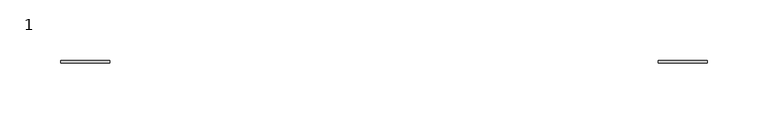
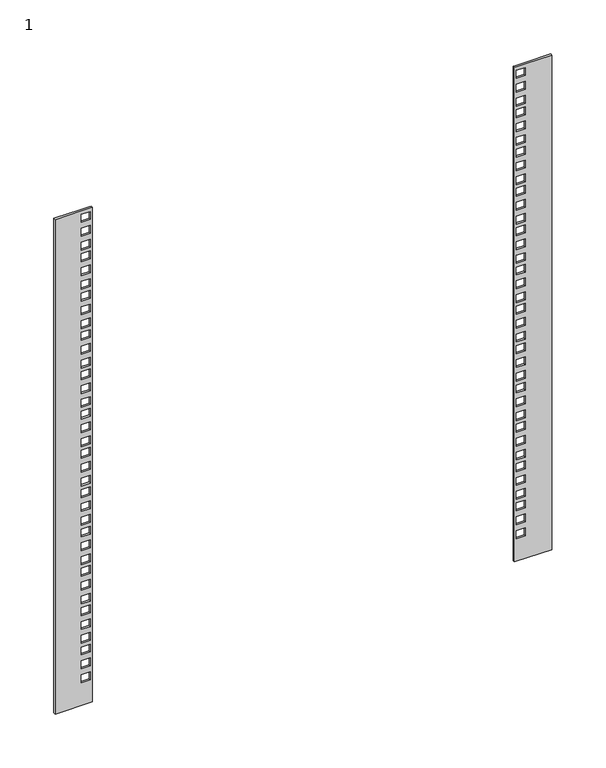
"""IFC4 building model written with IfcOpenShell, lengths in millimetres: proxy geometry, 1 : 12U 600мм стеклянная дверь."""

from ifc_helpers import new_model, si_unit, origin, place, context, project, spatial, faceted_brep, source, transform, mapped, element, save


def proxy_1_d2b752e0(model_context):
    return source(origin(), model_context, "Body", "Brep", [
        faceted_brep([(225.3, -252.6777479, 579.4675), (225.3, -254.6777479, 579.4675), (227.55, -254.6777479, 579.4675), (237.05, -254.6777479, 579.4675), (265.3, -254.6777479, 579.4675), (265.3, -252.6777479, 579.4675), (237.05, -252.6777479, 579.4675), (227.55, -252.6777479, 579.4675), (265.3, -252.6777479, 20.4675), (265.3, -254.6777479, 20.4675), (225.3, -254.6777479, 20.4675), (225.3, -252.6777479, 20.4675), (227.55, -254.6777479, 55.0175), (237.05, -254.6777479, 55.0175), (237.05, -254.6777479, 46.0675), (227.55, -254.6777479, 46.0675), (227.55, -254.6777479, 70.6675), (237.05, -254.6777479, 70.6675), (237.05, -254.6777479, 61.7175), (227.55, -254.6777479, 61.7175), (227.55, -254.6777479, 86.3175), (237.05, -254.6777479, 86.3175), (237.05, -254.6777479, 77.3675), (227.55, -254.6777479, 77.3675), (237.05, -254.6777479, 99.4675), (237.05, -254.6777479, 90.5175), (227.55, -254.6777479, 90.5175), (227.55, -254.6777479, 99.4675), (237.05, -254.6777479, 115.1175), (237.05, -254.6777479, 106.1675), (227.55, -254.6777479, 106.1675), (227.55, -254.6777479, 115.1175), (237.05, -254.6777479, 130.7675), (237.05, -254.6777479, 121.8175), (227.55, -254.6777479, 121.8175), (227.55, -254.6777479, 130.7675), (237.05, -254.6777479, 143.9175), (237.05, -254.6777479, 134.9675), (227.55, -254.6777479, 134.9675), (227.55, -254.6777479, 143.9175), (237.05, -254.6777479, 159.5675), (237.05, -254.6777479, 150.6175), (227.55, -254.6777479, 150.6175), (227.55, -254.6777479, 159.5675), (237.05, -254.6777479, 175.2175), (237.05, -254.6777479, 166.2675), (227.55, -254.6777479, 166.2675), (227.55, -254.6777479, 175.2175), (237.05, -254.6777479, 188.3675), (237.05, -254.6777479, 179.4175), (227.55, -254.6777479, 179.4175), (227.55, -254.6777479, 188.3675), (237.05, -254.6777479, 204.0175), (237.05, -254.6777479, 195.0675), (227.55, -254.6777479, 195.0675), (227.55, -254.6777479, 204.0175), (237.05, -254.6777479, 219.6675), (237.05, -254.6777479, 210.7175), (227.55, -254.6777479, 210.7175), (227.55, -254.6777479, 219.6675), (237.05, -254.6777479, 232.8175), (237.05, -254.6777479, 223.8675), (227.55, -254.6777479, 223.8675), (227.55, -254.6777479, 232.8175), (237.05, -254.6777479, 248.4675), (237.05, -254.6777479, 239.5175), (227.55, -254.6777479, 239.5175), (227.55, -254.6777479, 248.4675), (237.05, -254.6777479, 264.1175), (237.05, -254.6777479, 255.1675), (227.55, -254.6777479, 255.1675), (227.55, -254.6777479, 264.1175), (237.05, -254.6777479, 277.2675), (237.05, -254.6777479, 268.3175), (227.55, -254.6777479, 268.3175), (227.55, -254.6777479, 277.2675), (237.05, -254.6777479, 292.9175), (237.05, -254.6777479, 283.9675), (227.55, -254.6777479, 283.9675), (227.55, -254.6777479, 292.9175), (237.05, -254.6777479, 308.5675), (237.05, -254.6777479, 299.6175), (227.55, -254.6777479, 299.6175), (227.55, -254.6777479, 308.5675), (237.05, -254.6777479, 321.7175), (237.05, -254.6777479, 312.7675), (227.55, -254.6777479, 312.7675), (227.55, -254.6777479, 321.7175), (237.05, -254.6777479, 337.3675), (237.05, -254.6777479, 328.4175), (227.55, -254.6777479, 328.4175), (227.55, -254.6777479, 337.3675), (237.05, -254.6777479, 353.0175), (237.05, -254.6777479, 344.0675), (227.55, -254.6777479, 344.0675), (227.55, -254.6777479, 353.0175), (237.05, -254.6777479, 366.1675), (237.05, -254.6777479, 357.2175), (227.55, -254.6777479, 357.2175), (227.55, -254.6777479, 366.1675), (237.05, -254.6777479, 381.8175), (237.05, -254.6777479, 372.8675), (227.55, -254.6777479, 372.8675), (227.55, -254.6777479, 381.8175), (237.05, -254.6777479, 397.4675), (237.05, -254.6777479, 388.5175), (227.55, -254.6777479, 388.5175), (227.55, -254.6777479, 397.4675), (237.05, -254.6777479, 410.6175), (237.05, -254.6777479, 401.6675), (227.55, -254.6777479, 401.6675), (227.55, -254.6777479, 410.6175), (237.05, -254.6777479, 426.2675), (237.05, -254.6777479, 417.3175), (227.55, -254.6777479, 417.3175), (227.55, -254.6777479, 426.2675), (237.05, -254.6777479, 441.9175), (237.05, -254.6777479, 432.9675), (227.55, -254.6777479, 432.9675), (227.55, -254.6777479, 441.9175), (237.05, -254.6777479, 455.0675), (237.05, -254.6777479, 446.1175), (227.55, -254.6777479, 446.1175), (227.55, -254.6777479, 455.0675), (237.05, -254.6777479, 470.7175), (237.05, -254.6777479, 461.7675), (227.55, -254.6777479, 461.7675), (227.55, -254.6777479, 470.7175), (237.05, -254.6777479, 486.3675), (237.05, -254.6777479, 477.4175), (227.55, -254.6777479, 477.4175), (227.55, -254.6777479, 486.3675), (237.05, -254.6777479, 499.5175), (237.05, -254.6777479, 490.5675), (227.55, -254.6777479, 490.5675), (227.55, -254.6777479, 499.5175), (237.05, -254.6777479, 515.1675), (237.05, -254.6777479, 506.2175), (227.55, -254.6777479, 506.2175), (227.55, -254.6777479, 515.1675), (237.05, -254.6777479, 530.8175), (237.05, -254.6777479, 521.8675), (227.55, -254.6777479, 521.8675), (227.55, -254.6777479, 530.8175), (237.05, -254.6777479, 543.9675), (237.05, -254.6777479, 535.0175), (227.55, -254.6777479, 535.0175), (227.55, -254.6777479, 543.9675), (237.05, -254.6777479, 559.6175), (237.05, -254.6777479, 550.6675), (227.55, -254.6777479, 550.6675), (227.55, -254.6777479, 559.6175), (237.05, -254.6777479, 575.2675), (237.05, -254.6777479, 566.3175), (227.55, -254.6777479, 566.3175), (227.55, -254.6777479, 575.2675), (237.05, -252.6777479, 55.0175), (227.55, -252.6777479, 55.0175), (227.55, -252.6777479, 46.0675), (237.05, -252.6777479, 46.0675), (237.05, -252.6777479, 70.6675), (227.55, -252.6777479, 70.6675), (227.55, -252.6777479, 61.7175), (237.05, -252.6777479, 61.7175), (237.05, -252.6777479, 86.3175), (227.55, -252.6777479, 86.3175), (227.55, -252.6777479, 77.3675), (237.05, -252.6777479, 77.3675), (237.05, -252.6777479, 90.5175), (237.05, -252.6777479, 99.4675), (227.55, -252.6777479, 99.4675), (227.55, -252.6777479, 90.5175), (237.05, -252.6777479, 106.1675), (237.05, -252.6777479, 115.1175), (227.55, -252.6777479, 115.1175), (227.55, -252.6777479, 106.1675), (237.05, -252.6777479, 121.8175), (237.05, -252.6777479, 130.7675), (227.55, -252.6777479, 130.7675), (227.55, -252.6777479, 121.8175), (237.05, -252.6777479, 134.9675), (237.05, -252.6777479, 143.9175), (227.55, -252.6777479, 143.9175), (227.55, -252.6777479, 134.9675), (237.05, -252.6777479, 150.6175), (237.05, -252.6777479, 159.5675), (227.55, -252.6777479, 159.5675), (227.55, -252.6777479, 150.6175), (237.05, -252.6777479, 166.2675), (237.05, -252.6777479, 175.2175), (227.55, -252.6777479, 175.2175), (227.55, -252.6777479, 166.2675), (237.05, -252.6777479, 179.4175), (237.05, -252.6777479, 188.3675), (227.55, -252.6777479, 188.3675), (227.55, -252.6777479, 179.4175), (237.05, -252.6777479, 195.0675), (237.05, -252.6777479, 204.0175), (227.55, -252.6777479, 204.0175), (227.55, -252.6777479, 195.0675), (237.05, -252.6777479, 210.7175), (237.05, -252.6777479, 219.6675), (227.55, -252.6777479, 219.6675), (227.55, -252.6777479, 210.7175), (237.05, -252.6777479, 223.8675), (237.05, -252.6777479, 232.8175), (227.55, -252.6777479, 232.8175), (227.55, -252.6777479, 223.8675), (237.05, -252.6777479, 239.5175), (237.05, -252.6777479, 248.4675), (227.55, -252.6777479, 248.4675), (227.55, -252.6777479, 239.5175), (237.05, -252.6777479, 255.1675), (237.05, -252.6777479, 264.1175), (227.55, -252.6777479, 264.1175), (227.55, -252.6777479, 255.1675), (237.05, -252.6777479, 268.3175), (237.05, -252.6777479, 277.2675), (227.55, -252.6777479, 277.2675), (227.55, -252.6777479, 268.3175), (237.05, -252.6777479, 283.9675), (237.05, -252.6777479, 292.9175), (227.55, -252.6777479, 292.9175), (227.55, -252.6777479, 283.9675), (237.05, -252.6777479, 299.6175), (237.05, -252.6777479, 308.5675), (227.55, -252.6777479, 308.5675), (227.55, -252.6777479, 299.6175), (237.05, -252.6777479, 312.7675), (237.05, -252.6777479, 321.7175), (227.55, -252.6777479, 321.7175), (227.55, -252.6777479, 312.7675), (237.05, -252.6777479, 328.4175), (237.05, -252.6777479, 337.3675), (227.55, -252.6777479, 337.3675), (227.55, -252.6777479, 328.4175), (237.05, -252.6777479, 344.0675), (237.05, -252.6777479, 353.0175), (227.55, -252.6777479, 353.0175), (227.55, -252.6777479, 344.0675), (237.05, -252.6777479, 357.2175), (237.05, -252.6777479, 366.1675), (227.55, -252.6777479, 366.1675), (227.55, -252.6777479, 357.2175), (237.05, -252.6777479, 372.8675), (237.05, -252.6777479, 381.8175), (227.55, -252.6777479, 381.8175), (227.55, -252.6777479, 372.8675), (237.05, -252.6777479, 388.5175), (237.05, -252.6777479, 397.4675), (227.55, -252.6777479, 397.4675), (227.55, -252.6777479, 388.5175), (237.05, -252.6777479, 401.6675), (237.05, -252.6777479, 410.6175), (227.55, -252.6777479, 410.6175), (227.55, -252.6777479, 401.6675), (237.05, -252.6777479, 417.3175), (237.05, -252.6777479, 426.2675), (227.55, -252.6777479, 426.2675), (227.55, -252.6777479, 417.3175), (237.05, -252.6777479, 432.9675), (237.05, -252.6777479, 441.9175), (227.55, -252.6777479, 441.9175), (227.55, -252.6777479, 432.9675), (237.05, -252.6777479, 446.1175), (237.05, -252.6777479, 455.0675), (227.55, -252.6777479, 455.0675), (227.55, -252.6777479, 446.1175), (237.05, -252.6777479, 461.7675), (237.05, -252.6777479, 470.7175), (227.55, -252.6777479, 470.7175), (227.55, -252.6777479, 461.7675), (237.05, -252.6777479, 477.4175), (237.05, -252.6777479, 486.3675), (227.55, -252.6777479, 486.3675), (227.55, -252.6777479, 477.4175), (237.05, -252.6777479, 490.5675), (237.05, -252.6777479, 499.5175), (227.55, -252.6777479, 499.5175), (227.55, -252.6777479, 490.5675), (237.05, -252.6777479, 506.2175), (237.05, -252.6777479, 515.1675), (227.55, -252.6777479, 515.1675), (227.55, -252.6777479, 506.2175), (237.05, -252.6777479, 521.8675), (237.05, -252.6777479, 530.8175), (227.55, -252.6777479, 530.8175), (227.55, -252.6777479, 521.8675), (237.05, -252.6777479, 535.0175), (237.05, -252.6777479, 543.9675), (227.55, -252.6777479, 543.9675), (227.55, -252.6777479, 535.0175), (237.05, -252.6777479, 550.6675), (237.05, -252.6777479, 559.6175), (227.55, -252.6777479, 559.6175), (227.55, -252.6777479, 550.6675), (237.05, -252.6777479, 566.3175), (237.05, -252.6777479, 575.2675), (227.55, -252.6777479, 575.2675), (227.55, -252.6777479, 566.3175)], [[[0, 1, 2, 3, 4, 5, 6, 7]], [[8, 9, 10, 11]], [[5, 4, 9, 8]], [[10, 9, 4, 3, 2, 1], [12, 13, 14, 15], [16, 17, 18, 19], [20, 21, 22, 23], [24, 25, 26, 27], [28, 29, 30, 31], [32, 33, 34, 35], [36, 37, 38, 39], [40, 41, 42, 43], [44, 45, 46, 47], [48, 49, 50, 51], [52, 53, 54, 55], [56, 57, 58, 59], [60, 61, 62, 63], [64, 65, 66, 67], [68, 69, 70, 71], [72, 73, 74, 75], [76, 77, 78, 79], [80, 81, 82, 83], [84, 85, 86, 87], [88, 89, 90, 91], [92, 93, 94, 95], [96, 97, 98, 99], [100, 101, 102, 103], [104, 105, 106, 107], [108, 109, 110, 111], [112, 113, 114, 115], [116, 117, 118, 119], [120, 121, 122, 123], [124, 125, 126, 127], [128, 129, 130, 131], [132, 133, 134, 135], [136, 137, 138, 139], [140, 141, 142, 143], [144, 145, 146, 147], [148, 149, 150, 151], [152, 153, 154, 155]], [[1, 0, 11, 10]], [[8, 11, 0, 7, 6, 5], [156, 157, 158, 159], [160, 161, 162, 163], [164, 165, 166, 167], [168, 169, 170, 171], [172, 173, 174, 175], [176, 177, 178, 179], [180, 181, 182, 183], [184, 185, 186, 187], [188, 189, 190, 191], [192, 193, 194, 195], [196, 197, 198, 199], [200, 201, 202, 203], [204, 205, 206, 207], [208, 209, 210, 211], [212, 213, 214, 215], [216, 217, 218, 219], [220, 221, 222, 223], [224, 225, 226, 227], [228, 229, 230, 231], [232, 233, 234, 235], [236, 237, 238, 239], [240, 241, 242, 243], [244, 245, 246, 247], [248, 249, 250, 251], [252, 253, 254, 255], [256, 257, 258, 259], [260, 261, 262, 263], [264, 265, 266, 267], [268, 269, 270, 271], [272, 273, 274, 275], [276, 277, 278, 279], [280, 281, 282, 283], [284, 285, 286, 287], [288, 289, 290, 291], [292, 293, 294, 295], [296, 297, 298, 299]], [[156, 13, 12, 157]], [[157, 12, 15, 158]], [[158, 15, 14, 159]], [[13, 156, 159, 14]], [[160, 17, 16, 161]], [[161, 16, 19, 162]], [[162, 19, 18, 163]], [[17, 160, 163, 18]], [[164, 21, 20, 165]], [[165, 20, 23, 166]], [[166, 23, 22, 167]], [[21, 164, 167, 22]], [[168, 25, 24, 169]], [[25, 168, 171, 26]], [[26, 171, 170, 27]], [[27, 170, 169, 24]], [[172, 29, 28, 173]], [[29, 172, 175, 30]], [[30, 175, 174, 31]], [[31, 174, 173, 28]], [[176, 33, 32, 177]], [[33, 176, 179, 34]], [[34, 179, 178, 35]], [[35, 178, 177, 32]], [[180, 37, 36, 181]], [[37, 180, 183, 38]], [[38, 183, 182, 39]], [[39, 182, 181, 36]], [[184, 41, 40, 185]], [[41, 184, 187, 42]], [[42, 187, 186, 43]], [[43, 186, 185, 40]], [[188, 45, 44, 189]], [[45, 188, 191, 46]], [[46, 191, 190, 47]], [[47, 190, 189, 44]], [[192, 49, 48, 193]], [[49, 192, 195, 50]], [[50, 195, 194, 51]], [[51, 194, 193, 48]], [[196, 53, 52, 197]], [[53, 196, 199, 54]], [[54, 199, 198, 55]], [[55, 198, 197, 52]], [[200, 57, 56, 201]], [[57, 200, 203, 58]], [[58, 203, 202, 59]], [[59, 202, 201, 56]], [[204, 61, 60, 205]], [[61, 204, 207, 62]], [[62, 207, 206, 63]], [[63, 206, 205, 60]], [[208, 65, 64, 209]], [[65, 208, 211, 66]], [[66, 211, 210, 67]], [[67, 210, 209, 64]], [[212, 69, 68, 213]], [[69, 212, 215, 70]], [[70, 215, 214, 71]], [[71, 214, 213, 68]], [[216, 73, 72, 217]], [[73, 216, 219, 74]], [[74, 219, 218, 75]], [[75, 218, 217, 72]], [[220, 77, 76, 221]], [[77, 220, 223, 78]], [[78, 223, 222, 79]], [[79, 222, 221, 76]], [[224, 81, 80, 225]], [[81, 224, 227, 82]], [[82, 227, 226, 83]], [[83, 226, 225, 80]], [[228, 85, 84, 229]], [[85, 228, 231, 86]], [[86, 231, 230, 87]], [[87, 230, 229, 84]], [[232, 89, 88, 233]], [[89, 232, 235, 90]], [[90, 235, 234, 91]], [[91, 234, 233, 88]], [[236, 93, 92, 237]], [[93, 236, 239, 94]], [[94, 239, 238, 95]], [[95, 238, 237, 92]], [[240, 97, 96, 241]], [[97, 240, 243, 98]], [[98, 243, 242, 99]], [[99, 242, 241, 96]], [[244, 101, 100, 245]], [[101, 244, 247, 102]], [[102, 247, 246, 103]], [[103, 246, 245, 100]], [[248, 105, 104, 249]], [[105, 248, 251, 106]], [[106, 251, 250, 107]], [[107, 250, 249, 104]], [[252, 109, 108, 253]], [[109, 252, 255, 110]], [[110, 255, 254, 111]], [[111, 254, 253, 108]], [[256, 113, 112, 257]], [[113, 256, 259, 114]], [[114, 259, 258, 115]], [[115, 258, 257, 112]], [[260, 117, 116, 261]], [[117, 260, 263, 118]], [[118, 263, 262, 119]], [[119, 262, 261, 116]], [[264, 121, 120, 265]], [[121, 264, 267, 122]], [[122, 267, 266, 123]], [[123, 266, 265, 120]], [[268, 125, 124, 269]], [[125, 268, 271, 126]], [[126, 271, 270, 127]], [[127, 270, 269, 124]], [[272, 129, 128, 273]], [[129, 272, 275, 130]], [[130, 275, 274, 131]], [[131, 274, 273, 128]], [[276, 133, 132, 277]], [[133, 276, 279, 134]], [[134, 279, 278, 135]], [[135, 278, 277, 132]], [[280, 137, 136, 281]], [[137, 280, 283, 138]], [[138, 283, 282, 139]], [[139, 282, 281, 136]], [[284, 141, 140, 285]], [[141, 284, 287, 142]], [[142, 287, 286, 143]], [[143, 286, 285, 140]], [[288, 145, 144, 289]], [[145, 288, 291, 146]], [[146, 291, 290, 147]], [[147, 290, 289, 144]], [[292, 149, 148, 293]], [[149, 292, 295, 150]], [[150, 295, 294, 151]], [[151, 294, 293, 148]], [[296, 153, 152, 297]], [[153, 296, 299, 154]], [[154, 299, 298, 155]], [[155, 298, 297, 152]]]),
        faceted_brep([(-265.7, -252.6777479, 579.4675), (-265.7, -254.6777479, 579.4675), (-237.45, -254.6777479, 579.4675), (-227.95, -254.6777479, 579.4675), (-225.7, -254.6777479, 579.4675), (-225.7, -252.6777479, 579.4675), (-227.95, -252.6777479, 579.4675), (-237.45, -252.6777479, 579.4675), (-265.7, -252.6777479, 20.4675), (-225.7, -252.6777479, 20.4675), (-225.7, -254.6777479, 20.4675), (-265.7, -254.6777479, 20.4675), (-237.45, -254.6777479, 55.0175), (-227.95, -254.6777479, 55.0175), (-227.95, -254.6777479, 46.0675), (-237.45, -254.6777479, 46.0675), (-237.45, -254.6777479, 70.6675), (-227.95, -254.6777479, 70.6675), (-227.95, -254.6777479, 61.7175), (-237.45, -254.6777479, 61.7175), (-237.45, -254.6777479, 86.3175), (-227.95, -254.6777479, 86.3175), (-227.95, -254.6777479, 77.3675), (-237.45, -254.6777479, 77.3675), (-237.45, -254.6777479, 90.5175), (-237.45, -254.6777479, 99.4675), (-227.95, -254.6777479, 99.4675), (-227.95, -254.6777479, 90.5175), (-237.45, -254.6777479, 106.1675), (-237.45, -254.6777479, 115.1175), (-227.95, -254.6777479, 115.1175), (-227.95, -254.6777479, 106.1675), (-237.45, -254.6777479, 121.8175), (-237.45, -254.6777479, 130.7675), (-227.95, -254.6777479, 130.7675), (-227.95, -254.6777479, 121.8175), (-237.45, -254.6777479, 134.9675), (-237.45, -254.6777479, 143.9175), (-227.95, -254.6777479, 143.9175), (-227.95, -254.6777479, 134.9675), (-237.45, -254.6777479, 150.6175), (-237.45, -254.6777479, 159.5675), (-227.95, -254.6777479, 159.5675), (-227.95, -254.6777479, 150.6175), (-237.45, -254.6777479, 166.2675), (-237.45, -254.6777479, 175.2175), (-227.95, -254.6777479, 175.2175), (-227.95, -254.6777479, 166.2675), (-237.45, -254.6777479, 179.4175), (-237.45, -254.6777479, 188.3675), (-227.95, -254.6777479, 188.3675), (-227.95, -254.6777479, 179.4175), (-237.45, -254.6777479, 195.0675), (-237.45, -254.6777479, 204.0175), (-227.95, -254.6777479, 204.0175), (-227.95, -254.6777479, 195.0675), (-237.45, -254.6777479, 210.7175), (-237.45, -254.6777479, 219.6675), (-227.95, -254.6777479, 219.6675), (-227.95, -254.6777479, 210.7175), (-237.45, -254.6777479, 223.8675), (-237.45, -254.6777479, 232.8175), (-227.95, -254.6777479, 232.8175), (-227.95, -254.6777479, 223.8675), (-237.45, -254.6777479, 239.5175), (-237.45, -254.6777479, 248.4675), (-227.95, -254.6777479, 248.4675), (-227.95, -254.6777479, 239.5175), (-237.45, -254.6777479, 255.1675), (-237.45, -254.6777479, 264.1175), (-227.95, -254.6777479, 264.1175), (-227.95, -254.6777479, 255.1675), (-237.45, -254.6777479, 268.3175), (-237.45, -254.6777479, 277.2675), (-227.95, -254.6777479, 277.2675), (-227.95, -254.6777479, 268.3175), (-237.45, -254.6777479, 283.9675), (-237.45, -254.6777479, 292.9175), (-227.95, -254.6777479, 292.9175), (-227.95, -254.6777479, 283.9675), (-237.45, -254.6777479, 299.6175), (-237.45, -254.6777479, 308.5675), (-227.95, -254.6777479, 308.5675), (-227.95, -254.6777479, 299.6175), (-237.45, -254.6777479, 312.7675), (-237.45, -254.6777479, 321.7175), (-227.95, -254.6777479, 321.7175), (-227.95, -254.6777479, 312.7675), (-237.45, -254.6777479, 328.4175), (-237.45, -254.6777479, 337.3675), (-227.95, -254.6777479, 337.3675), (-227.95, -254.6777479, 328.4175), (-237.45, -254.6777479, 344.0675), (-237.45, -254.6777479, 353.0175), (-227.95, -254.6777479, 353.0175), (-227.95, -254.6777479, 344.0675), (-237.45, -254.6777479, 357.2175), (-237.45, -254.6777479, 366.1675), (-227.95, -254.6777479, 366.1675), (-227.95, -254.6777479, 357.2175), (-237.45, -254.6777479, 372.8675), (-237.45, -254.6777479, 381.8175), (-227.95, -254.6777479, 381.8175), (-227.95, -254.6777479, 372.8675), (-237.45, -254.6777479, 388.5175), (-237.45, -254.6777479, 397.4675), (-227.95, -254.6777479, 397.4675), (-227.95, -254.6777479, 388.5175), (-237.45, -254.6777479, 401.6675), (-237.45, -254.6777479, 410.6175), (-227.95, -254.6777479, 410.6175), (-227.95, -254.6777479, 401.6675), (-237.45, -254.6777479, 417.3175), (-237.45, -254.6777479, 426.2675), (-227.95, -254.6777479, 426.2675), (-227.95, -254.6777479, 417.3175), (-237.45, -254.6777479, 432.9675), (-237.45, -254.6777479, 441.9175), (-227.95, -254.6777479, 441.9175), (-227.95, -254.6777479, 432.9675), (-237.45, -254.6777479, 446.1175), (-237.45, -254.6777479, 455.0675), (-227.95, -254.6777479, 455.0675), (-227.95, -254.6777479, 446.1175), (-237.45, -254.6777479, 461.7675), (-237.45, -254.6777479, 470.7175), (-227.95, -254.6777479, 470.7175), (-227.95, -254.6777479, 461.7675), (-237.45, -254.6777479, 477.4175), (-237.45, -254.6777479, 486.3675), (-227.95, -254.6777479, 486.3675), (-227.95, -254.6777479, 477.4175), (-237.45, -254.6777479, 490.5675), (-237.45, -254.6777479, 499.5175), (-227.95, -254.6777479, 499.5175), (-227.95, -254.6777479, 490.5675), (-237.45, -254.6777479, 506.2175), (-237.45, -254.6777479, 515.1675), (-227.95, -254.6777479, 515.1675), (-227.95, -254.6777479, 506.2175), (-237.45, -254.6777479, 521.8675), (-237.45, -254.6777479, 530.8175), (-227.95, -254.6777479, 530.8175), (-227.95, -254.6777479, 521.8675), (-237.45, -254.6777479, 535.0175), (-237.45, -254.6777479, 543.9675), (-227.95, -254.6777479, 543.9675), (-227.95, -254.6777479, 535.0175), (-237.45, -254.6777479, 550.6675), (-237.45, -254.6777479, 559.6175), (-227.95, -254.6777479, 559.6175), (-227.95, -254.6777479, 550.6675), (-237.45, -254.6777479, 566.3175), (-237.45, -254.6777479, 575.2675), (-227.95, -254.6777479, 575.2675), (-227.95, -254.6777479, 566.3175), (-227.95, -252.6777479, 55.0175), (-237.45, -252.6777479, 55.0175), (-237.45, -252.6777479, 46.0675), (-227.95, -252.6777479, 46.0675), (-227.95, -252.6777479, 70.6675), (-237.45, -252.6777479, 70.6675), (-237.45, -252.6777479, 61.7175), (-227.95, -252.6777479, 61.7175), (-227.95, -252.6777479, 86.3175), (-237.45, -252.6777479, 86.3175), (-237.45, -252.6777479, 77.3675), (-227.95, -252.6777479, 77.3675), (-237.45, -252.6777479, 99.4675), (-237.45, -252.6777479, 90.5175), (-227.95, -252.6777479, 90.5175), (-227.95, -252.6777479, 99.4675), (-237.45, -252.6777479, 115.1175), (-237.45, -252.6777479, 106.1675), (-227.95, -252.6777479, 106.1675), (-227.95, -252.6777479, 115.1175), (-237.45, -252.6777479, 130.7675), (-237.45, -252.6777479, 121.8175), (-227.95, -252.6777479, 121.8175), (-227.95, -252.6777479, 130.7675), (-237.45, -252.6777479, 143.9175), (-237.45, -252.6777479, 134.9675), (-227.95, -252.6777479, 134.9675), (-227.95, -252.6777479, 143.9175), (-237.45, -252.6777479, 159.5675), (-237.45, -252.6777479, 150.6175), (-227.95, -252.6777479, 150.6175), (-227.95, -252.6777479, 159.5675), (-237.45, -252.6777479, 175.2175), (-237.45, -252.6777479, 166.2675), (-227.95, -252.6777479, 166.2675), (-227.95, -252.6777479, 175.2175), (-237.45, -252.6777479, 188.3675), (-237.45, -252.6777479, 179.4175), (-227.95, -252.6777479, 179.4175), (-227.95, -252.6777479, 188.3675), (-237.45, -252.6777479, 204.0175), (-237.45, -252.6777479, 195.0675), (-227.95, -252.6777479, 195.0675), (-227.95, -252.6777479, 204.0175), (-237.45, -252.6777479, 219.6675), (-237.45, -252.6777479, 210.7175), (-227.95, -252.6777479, 210.7175), (-227.95, -252.6777479, 219.6675), (-237.45, -252.6777479, 232.8175), (-237.45, -252.6777479, 223.8675), (-227.95, -252.6777479, 223.8675), (-227.95, -252.6777479, 232.8175), (-237.45, -252.6777479, 248.4675), (-237.45, -252.6777479, 239.5175), (-227.95, -252.6777479, 239.5175), (-227.95, -252.6777479, 248.4675), (-237.45, -252.6777479, 264.1175), (-237.45, -252.6777479, 255.1675), (-227.95, -252.6777479, 255.1675), (-227.95, -252.6777479, 264.1175), (-237.45, -252.6777479, 277.2675), (-237.45, -252.6777479, 268.3175), (-227.95, -252.6777479, 268.3175), (-227.95, -252.6777479, 277.2675), (-237.45, -252.6777479, 292.9175), (-237.45, -252.6777479, 283.9675), (-227.95, -252.6777479, 283.9675), (-227.95, -252.6777479, 292.9175), (-237.45, -252.6777479, 308.5675), (-237.45, -252.6777479, 299.6175), (-227.95, -252.6777479, 299.6175), (-227.95, -252.6777479, 308.5675), (-237.45, -252.6777479, 321.7175), (-237.45, -252.6777479, 312.7675), (-227.95, -252.6777479, 312.7675), (-227.95, -252.6777479, 321.7175), (-237.45, -252.6777479, 337.3675), (-237.45, -252.6777479, 328.4175), (-227.95, -252.6777479, 328.4175), (-227.95, -252.6777479, 337.3675), (-237.45, -252.6777479, 353.0175), (-237.45, -252.6777479, 344.0675), (-227.95, -252.6777479, 344.0675), (-227.95, -252.6777479, 353.0175), (-237.45, -252.6777479, 366.1675), (-237.45, -252.6777479, 357.2175), (-227.95, -252.6777479, 357.2175), (-227.95, -252.6777479, 366.1675), (-237.45, -252.6777479, 381.8175), (-237.45, -252.6777479, 372.8675), (-227.95, -252.6777479, 372.8675), (-227.95, -252.6777479, 381.8175), (-237.45, -252.6777479, 397.4675), (-237.45, -252.6777479, 388.5175), (-227.95, -252.6777479, 388.5175), (-227.95, -252.6777479, 397.4675), (-237.45, -252.6777479, 410.6175), (-237.45, -252.6777479, 401.6675), (-227.95, -252.6777479, 401.6675), (-227.95, -252.6777479, 410.6175), (-237.45, -252.6777479, 426.2675), (-237.45, -252.6777479, 417.3175), (-227.95, -252.6777479, 417.3175), (-227.95, -252.6777479, 426.2675), (-237.45, -252.6777479, 441.9175), (-237.45, -252.6777479, 432.9675), (-227.95, -252.6777479, 432.9675), (-227.95, -252.6777479, 441.9175), (-237.45, -252.6777479, 455.0675), (-237.45, -252.6777479, 446.1175), (-227.95, -252.6777479, 446.1175), (-227.95, -252.6777479, 455.0675), (-237.45, -252.6777479, 470.7175), (-237.45, -252.6777479, 461.7675), (-227.95, -252.6777479, 461.7675), (-227.95, -252.6777479, 470.7175), (-237.45, -252.6777479, 486.3675), (-237.45, -252.6777479, 477.4175), (-227.95, -252.6777479, 477.4175), (-227.95, -252.6777479, 486.3675), (-237.45, -252.6777479, 499.5175), (-237.45, -252.6777479, 490.5675), (-227.95, -252.6777479, 490.5675), (-227.95, -252.6777479, 499.5175), (-237.45, -252.6777479, 515.1675), (-237.45, -252.6777479, 506.2175), (-227.95, -252.6777479, 506.2175), (-227.95, -252.6777479, 515.1675), (-237.45, -252.6777479, 530.8175), (-237.45, -252.6777479, 521.8675), (-227.95, -252.6777479, 521.8675), (-227.95, -252.6777479, 530.8175), (-237.45, -252.6777479, 543.9675), (-237.45, -252.6777479, 535.0175), (-227.95, -252.6777479, 535.0175), (-227.95, -252.6777479, 543.9675), (-237.45, -252.6777479, 559.6175), (-237.45, -252.6777479, 550.6675), (-227.95, -252.6777479, 550.6675), (-227.95, -252.6777479, 559.6175), (-237.45, -252.6777479, 575.2675), (-237.45, -252.6777479, 566.3175), (-227.95, -252.6777479, 566.3175), (-227.95, -252.6777479, 575.2675)], [[[0, 1, 2, 3, 4, 5, 6, 7]], [[8, 9, 10, 11]], [[1, 0, 8, 11]], [[11, 10, 4, 3, 2, 1], [12, 13, 14, 15], [16, 17, 18, 19], [20, 21, 22, 23], [24, 25, 26, 27], [28, 29, 30, 31], [32, 33, 34, 35], [36, 37, 38, 39], [40, 41, 42, 43], [44, 45, 46, 47], [48, 49, 50, 51], [52, 53, 54, 55], [56, 57, 58, 59], [60, 61, 62, 63], [64, 65, 66, 67], [68, 69, 70, 71], [72, 73, 74, 75], [76, 77, 78, 79], [80, 81, 82, 83], [84, 85, 86, 87], [88, 89, 90, 91], [92, 93, 94, 95], [96, 97, 98, 99], [100, 101, 102, 103], [104, 105, 106, 107], [108, 109, 110, 111], [112, 113, 114, 115], [116, 117, 118, 119], [120, 121, 122, 123], [124, 125, 126, 127], [128, 129, 130, 131], [132, 133, 134, 135], [136, 137, 138, 139], [140, 141, 142, 143], [144, 145, 146, 147], [148, 149, 150, 151], [152, 153, 154, 155]], [[5, 4, 10, 9]], [[9, 8, 0, 7, 6, 5], [156, 157, 158, 159], [160, 161, 162, 163], [164, 165, 166, 167], [168, 169, 170, 171], [172, 173, 174, 175], [176, 177, 178, 179], [180, 181, 182, 183], [184, 185, 186, 187], [188, 189, 190, 191], [192, 193, 194, 195], [196, 197, 198, 199], [200, 201, 202, 203], [204, 205, 206, 207], [208, 209, 210, 211], [212, 213, 214, 215], [216, 217, 218, 219], [220, 221, 222, 223], [224, 225, 226, 227], [228, 229, 230, 231], [232, 233, 234, 235], [236, 237, 238, 239], [240, 241, 242, 243], [244, 245, 246, 247], [248, 249, 250, 251], [252, 253, 254, 255], [256, 257, 258, 259], [260, 261, 262, 263], [264, 265, 266, 267], [268, 269, 270, 271], [272, 273, 274, 275], [276, 277, 278, 279], [280, 281, 282, 283], [284, 285, 286, 287], [288, 289, 290, 291], [292, 293, 294, 295], [296, 297, 298, 299]], [[156, 13, 12, 157]], [[13, 156, 159, 14]], [[14, 159, 158, 15]], [[15, 158, 157, 12]], [[160, 17, 16, 161]], [[17, 160, 163, 18]], [[18, 163, 162, 19]], [[19, 162, 161, 16]], [[164, 21, 20, 165]], [[21, 164, 167, 22]], [[22, 167, 166, 23]], [[23, 166, 165, 20]], [[168, 25, 24, 169]], [[169, 24, 27, 170]], [[170, 27, 26, 171]], [[25, 168, 171, 26]], [[172, 29, 28, 173]], [[173, 28, 31, 174]], [[174, 31, 30, 175]], [[29, 172, 175, 30]], [[176, 33, 32, 177]], [[177, 32, 35, 178]], [[178, 35, 34, 179]], [[33, 176, 179, 34]], [[180, 37, 36, 181]], [[181, 36, 39, 182]], [[182, 39, 38, 183]], [[37, 180, 183, 38]], [[184, 41, 40, 185]], [[185, 40, 43, 186]], [[186, 43, 42, 187]], [[41, 184, 187, 42]], [[188, 45, 44, 189]], [[189, 44, 47, 190]], [[190, 47, 46, 191]], [[45, 188, 191, 46]], [[192, 49, 48, 193]], [[193, 48, 51, 194]], [[194, 51, 50, 195]], [[49, 192, 195, 50]], [[196, 53, 52, 197]], [[197, 52, 55, 198]], [[198, 55, 54, 199]], [[53, 196, 199, 54]], [[200, 57, 56, 201]], [[201, 56, 59, 202]], [[202, 59, 58, 203]], [[57, 200, 203, 58]], [[204, 61, 60, 205]], [[205, 60, 63, 206]], [[206, 63, 62, 207]], [[61, 204, 207, 62]], [[208, 65, 64, 209]], [[209, 64, 67, 210]], [[210, 67, 66, 211]], [[65, 208, 211, 66]], [[212, 69, 68, 213]], [[213, 68, 71, 214]], [[214, 71, 70, 215]], [[69, 212, 215, 70]], [[216, 73, 72, 217]], [[217, 72, 75, 218]], [[218, 75, 74, 219]], [[73, 216, 219, 74]], [[220, 77, 76, 221]], [[221, 76, 79, 222]], [[222, 79, 78, 223]], [[77, 220, 223, 78]], [[224, 81, 80, 225]], [[225, 80, 83, 226]], [[226, 83, 82, 227]], [[81, 224, 227, 82]], [[228, 85, 84, 229]], [[229, 84, 87, 230]], [[230, 87, 86, 231]], [[85, 228, 231, 86]], [[232, 89, 88, 233]], [[233, 88, 91, 234]], [[234, 91, 90, 235]], [[89, 232, 235, 90]], [[236, 93, 92, 237]], [[237, 92, 95, 238]], [[238, 95, 94, 239]], [[93, 236, 239, 94]], [[240, 97, 96, 241]], [[241, 96, 99, 242]], [[242, 99, 98, 243]], [[97, 240, 243, 98]], [[244, 101, 100, 245]], [[245, 100, 103, 246]], [[246, 103, 102, 247]], [[101, 244, 247, 102]], [[248, 105, 104, 249]], [[249, 104, 107, 250]], [[250, 107, 106, 251]], [[105, 248, 251, 106]], [[252, 109, 108, 253]], [[253, 108, 111, 254]], [[254, 111, 110, 255]], [[109, 252, 255, 110]], [[256, 113, 112, 257]], [[257, 112, 115, 258]], [[258, 115, 114, 259]], [[113, 256, 259, 114]], [[260, 117, 116, 261]], [[261, 116, 119, 262]], [[262, 119, 118, 263]], [[117, 260, 263, 118]], [[264, 121, 120, 265]], [[265, 120, 123, 266]], [[266, 123, 122, 267]], [[121, 264, 267, 122]], [[268, 125, 124, 269]], [[269, 124, 127, 270]], [[270, 127, 126, 271]], [[125, 268, 271, 126]], [[272, 129, 128, 273]], [[273, 128, 131, 274]], [[274, 131, 130, 275]], [[129, 272, 275, 130]], [[276, 133, 132, 277]], [[277, 132, 135, 278]], [[278, 135, 134, 279]], [[133, 276, 279, 134]], [[280, 137, 136, 281]], [[281, 136, 139, 282]], [[282, 139, 138, 283]], [[137, 280, 283, 138]], [[284, 141, 140, 285]], [[285, 140, 143, 286]], [[286, 143, 142, 287]], [[141, 284, 287, 142]], [[288, 145, 144, 289]], [[289, 144, 147, 290]], [[290, 147, 146, 291]], [[145, 288, 291, 146]], [[292, 149, 148, 293]], [[293, 148, 151, 294]], [[294, 151, 150, 295]], [[149, 292, 295, 150]], [[296, 153, 152, 297]], [[297, 152, 155, 298]], [[298, 155, 154, 299]], [[153, 296, 299, 154]]]),
    ])


if __name__ == "__main__":
    model = new_model("IFC4")
    model_context = context("Model", 3, world=origin())
    ifc_project = project(units=[si_unit("LENGTHUNIT", "METRE", prefix="MILLI")], contexts=[model_context])
    site = spatial("IfcSite", under=ifc_project)
    building = spatial("IfcBuilding", under=site)
    placement = place(None, origin())
    proxy_1_shape = proxy_1_d2b752e0(model_context)
    element("IfcBuildingElementProxy", 1, Name="1 : 12U 600мм стеклянная дверь", ObjectType="1 : 12U 600мм стеклянная дверь", at=placement, inside=building, context=model_context, shape_type="MappedRepresentation", body=[
        mapped(proxy_1_shape, transform((0.0, 0.0, 0.0), x_axis=(1.0, 0.0, 0.0), y_axis=(0.0, 1.0, 0.0), z_axis=(0.0, 0.0, 1.0))),
    ])
    save(model, "model.ifc")
